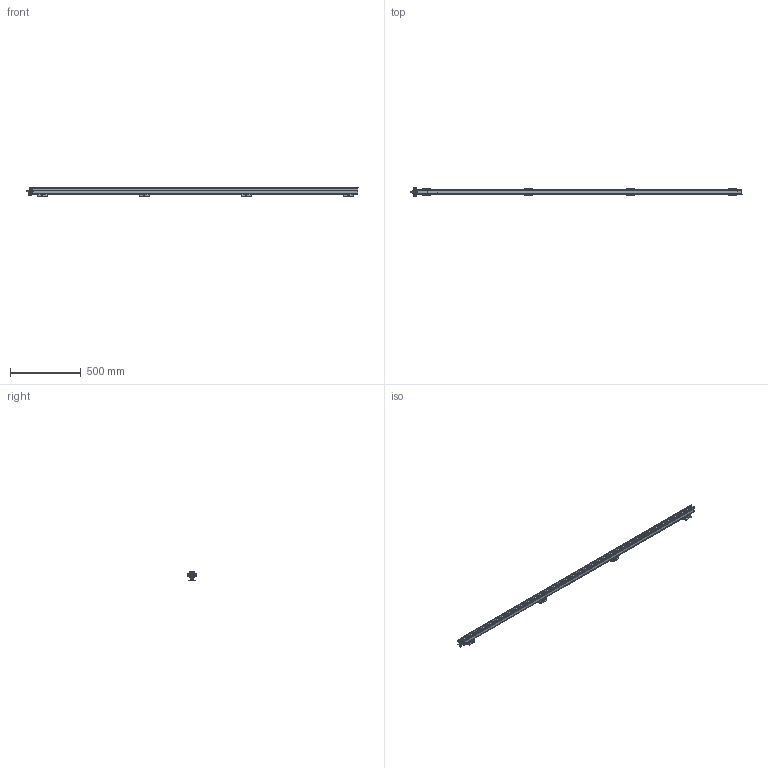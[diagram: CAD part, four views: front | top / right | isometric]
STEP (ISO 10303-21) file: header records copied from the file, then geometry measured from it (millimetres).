
FILE_DESCRIPTION(/* description */ (''),/* implementation_level */ '2;1');
FILE_NAME(/* name */ 'PERFORMAXEASYEX_2130_3D_GB',/* time_stamp */ '2017-05-31T09:52:46+02:00',/* author */ (''),/* organization */ (''),/* preprocessor_version */ 'ST-DEVELOPER v15.7',/* originating_system */ 'HiCAD 2015 2002.1 Build 408',/* authorisation */ '');
FILE_SCHEMA (('AUTOMOTIVE_DESIGN { 1 0 10303 214 1 1 1 1 }'));
Length unit declared in the file: millimetre
Products named in the file (75): Root; -_Performax (IQ) Easy Ex 2130 eff (Speed); -_LED; -_PROFILE; -_POTTING; -_CAP DE; -_CAP CE; -_CABLE; -_PIN; -_COVER; 4532000100_Mounting bracket bars; -_Side piece; -_Slide piece; -_Bracket small; DIN 13-M3; DIN 76-M3; 2047507823_PE connection; DIN 916-M4x20-45H_Set screws; GEWINDE; ISO 8738-4-160 HV_Washers for studs; ISO 4032-M4-10_Hexagon nuts; DIN 127-A 4-FSt_Washers; 2047493713_Cable exits; -_Exit K; -_Clip; -_Gland body; -_Exit S; -_Exit Q; -_Washer ø20mm, 5mm thick for corr. conduit (exit
 Q); -_Exit I; -_Exit U; -_Exit A; Thread_2
Assembly tree (74 placements, depth 5):
  Root
    -_Performax (IQ) Easy Ex 2130 eff (Speed)
      -_LED
      -_PROFILE
      -_POTTING
      -_CAP DE
      -_CAP CE
      -_CABLE
      -_PIN
      -_PIN
      -_COVER
      4532000100_Mounting bracket bars
        -_Side piece
        -_Side piece
        -_Slide piece
        -_Bracket small
          DIN 13-M3
          DIN 13-M3
          DIN 76-M3
          DIN 76-M3
      4532000100_Mounting bracket bars
        -_Side piece
        -_Side piece
        -_Slide piece
        -_Bracket small
          DIN 13-M3
          DIN 13-M3
          DIN 76-M3
          DIN 76-M3
      4532000100_Mounting bracket bars
        -_Side piece
        -_Side piece
        -_Slide piece
        -_Bracket small
          DIN 13-M3
          DIN 13-M3
          DIN 76-M3
          DIN 76-M3
      4532000100_Mounting bracket bars
        -_Side piece
        -_Side piece
        -_Slide piece
        -_Bracket small
          DIN 13-M3
          DIN 13-M3
          DIN 76-M3
          DIN 76-M3
      2047507823_PE connection
        DIN 916-M4x20-45H_Set screws
          GEWINDE
        ISO 8738-4-160 HV_Washers for studs
        ISO 4032-M4-10_Hexagon nuts
          GEWINDE
        DIN 127-A 4-FSt_Washers
        ISO 4032-M4-10_Hexagon nuts
          GEWINDE
      2047493713_Cable exits
        -_Exit K
          -_Clip
          -_Gland body
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Bounding box: 2352.4 x 58.79 x 68.9 mm (x, y, z)
Volume: 2851878.2 mm3; surface area: 813842.1 mm2
Topology: 63 solids, 75 shells, 3239 faces, 8266 edges, 4990 vertices
Faces by surface type: plane 1391, cylinder 1323, torus 177, sphere 165, bspline 128, cone 55
Full cylindrical faces by diameter (mm): 2.387 x16, 3 x32, 3.141 x4, 4 x5, 4.3 x1, 5.4 x2, 5.5 x20, 8 x2, 11.3 x4, 12.5 x4, 13 x1, 14.6 x5, 15.1 x5, 18.4 x4, 20 x7, 20.2 x4
Entity records: 176187 total; most frequent: CARTESIAN_POINT 35942, DIRECTION 16546, PRESENTATION_STYLE_ASSIGNMENT 15725, OVER_RIDING_STYLED_ITEM 15663, DRAUGHTING_PRE_DEFINED_CURVE_FONT 15640, CURVE_STYLE 15640, ORIENTED_EDGE 15640, EDGE_CURVE 7820
